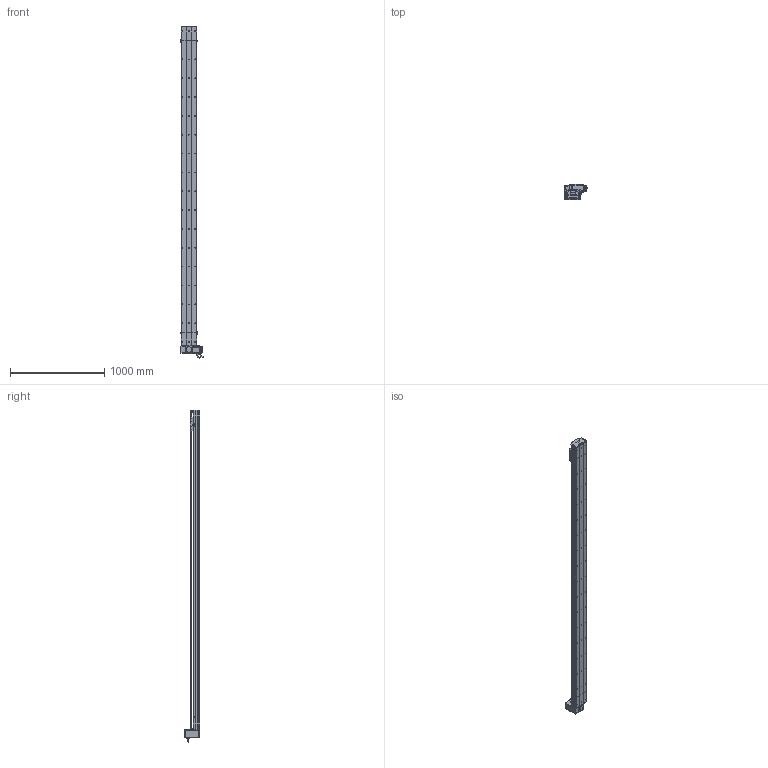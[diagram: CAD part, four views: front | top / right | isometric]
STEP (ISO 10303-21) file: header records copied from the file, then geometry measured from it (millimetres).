
FILE_DESCRIPTION (( 'STEP AP214' ), '1' );
FILE_NAME ('D17 TBH RT S3100.STEP', '2010-06-30T09:07:26', ( 'Christophe Gaillard' ), ( 'SGA' ), 'SwSTEP 2.0', 'SolidWorks 2010', '' );
FILE_SCHEMA (( 'AUTOMOTIVE_DESIGN' ));
Length unit declared in the file: millimetre
Products named in the file (40): Plaque racord D17_Default; guide D17; Couroie+ rail D17 Course 3100 ; Couroie tail D17B_Default; corp D17B 3100_Default; couvercle D17B course L3100_Default; tete d''axe poulie D17B; avant 90BLDC125A-640; cache arbre D17_Default; plaque de  bout head D17B RT_Default; poulie tail_Default; Arbre+rail head D17B; Renvoi RT_Default; Vis M5 L16-2_Default; corp tail D17B+100_Default; corps 90BLDC125A-640; Conecteur_Default; vis M5 L12_Default; codeur 90BLDC125-640; Conecteur2_Default; Tail D17B+100_Default; vis M5 L16_Default; Chariot D17; Moteur motionking 90BLDC125A-640; course 3100 D17B_Default; D17 TBH RT S3100; couvercle D17B_Default; Head RT D17B_Default; vis M5 L8 90°_Default; poulie head_Default; chariot D17S_Default; vis M5 L5_Default; cache D17_Default; couroie head D17_Default; plaque de  bout tail D17B_Default; Rail D17B; corpl head D17 _Default; couvercle D17B head_Default; vis M5 L25_Default; vis M5 L70_Default
Assembly tree (70 placements, depth 4):
  D17 TBH RT S3100
    Head RT D17B_Default
      vis M5 L12_Default  x8
      vis M5 L5_Default  x4
      vis M5 L25_Default  x2
      vis M5 L70_Default  x4
      Plaque racord D17_Default
      Vis M5 L16-2_Default  x4
      poulie head_Default
      cache D17_Default  x2
      corpl head D17 _Default
      plaque de  bout head D17B RT_Default
      cache arbre D17_Default
      couvercle D17B head_Default
      Moteur motionking 90BLDC125A-640
        Conecteur2_Default
        corps 90BLDC125A-640
        Conecteur_Default
        avant 90BLDC125A-640
        codeur 90BLDC125-640
      couroie head D17_Default
      Arbre+rail head D17B
      vis M5 L16_Default  x2
      Renvoi RT_Default
    course 3100 D17B_Default
      Couroie+ rail D17 Course 3100 
      couvercle D17B course L3100_Default
      corp D17B 3100_Default
    chariot D17S_Default
      vis M5 L12_Default  x4
      guide D17  x2
      Chariot D17
    Tail D17B+100_Default
      tete d''axe poulie D17B
      vis M5 L12_Default  x4
      couvercle D17B_Default
      corp tail D17B+100_Default
      Rail D17B
      vis M5 L8 90°_Default  x2
      Couroie tail D17B_Default
      poulie tail_Default
      vis M5 L25_Default  x2
      plaque de  bout tail D17B_Default
Bounding box: 245.2 x 166.15 x 3523.95 mm (x, y, z)
Volume: 20010495.7 mm3; surface area: 5838262 mm2
Topology: 94 solids, 94 shells, 2789 faces, 7147 edges, 4598 vertices
Faces by surface type: plane 1611, cylinder 865, bspline 136, cone 88, torus 85, sphere 4
Entity records: 88498 total; most frequent: CARTESIAN_POINT 25879, ORIENTED_EDGE 11066, DIRECTION 10470, EDGE_CURVE 5533, VERTEX_POINT 3622, LINE 3584, VECTOR 3584, AXIS2_PLACEMENT_3D 3443
